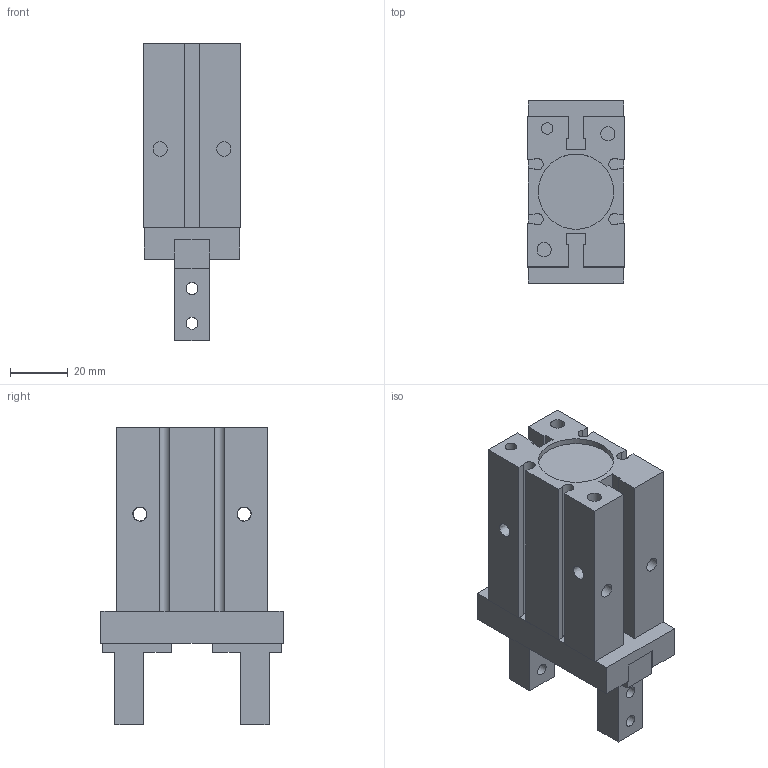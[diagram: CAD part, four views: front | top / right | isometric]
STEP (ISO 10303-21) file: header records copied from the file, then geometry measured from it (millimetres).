
FILE_DESCRIPTION((''),'2;1');
FILE_NAME('I:\Area Tecnica\Documenti\A-Mauro\_Inventor\LIBRERIE\6310\6310_25_##.stp','2007-02-24T10:58:42',('maffial1'),(''),'Autodesk Inventor 11','Autodesk Inventor 11','');
FILE_SCHEMA(('AUTOMOTIVE_DESIGN { 1 0 10303 214 1 1 1 1 }'));
Length unit declared in the file: millimetre
Products named in the file (3): 6310_25_##; CORPO Ø25; DITO Ø25
Assembly tree (3 placements, depth 2):
  6310_25_##
    CORPO Ø25
    DITO Ø25  x2
Bounding box: 33.6 x 63 x 102.7 mm (x, y, z)
Volume: 123420.9 mm3; surface area: 30626.3 mm2
Topology: 3 solids, 3 shells, 106 faces, 280 edges, 184 vertices
Faces by surface type: plane 79, bspline 22, cylinder 5
Full cylindrical faces by diameter (mm): 26 x1
Entity records: 3032 total; most frequent: CARTESIAN_POINT 726, ORIENTED_EDGE 456, DIRECTION 428, EDGE_CURVE 228, VECTOR 188, LINE 188, VERTEX_POINT 156, EDGE_LOOP 124
